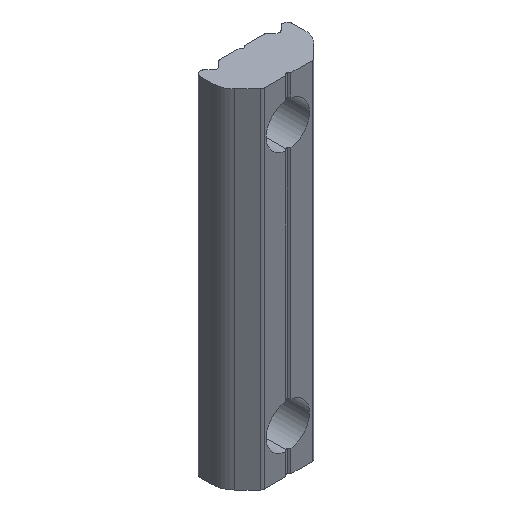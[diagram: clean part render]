
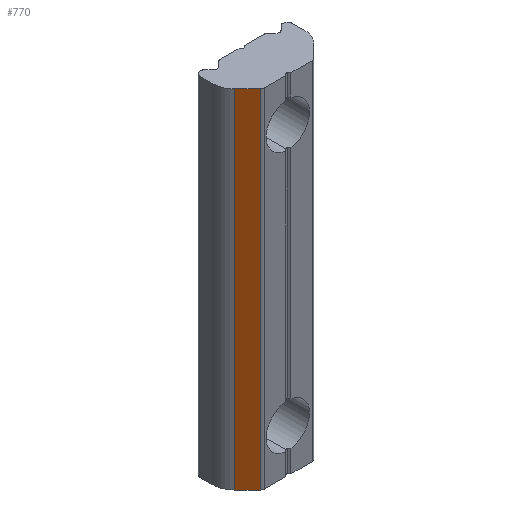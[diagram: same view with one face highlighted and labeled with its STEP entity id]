
A CAD part, isometric view. The second image highlights one B-rep face of the part: STEP entity #770.
In plain terms, the highlighted planar face has unit normal (-0.707, -0.707, 0).
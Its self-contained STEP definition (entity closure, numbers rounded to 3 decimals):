
#8 = AXIS2_PLACEMENT_3D ( 'NONE', #909, #1016, #998 ) ;
#24 = EDGE_LOOP ( 'NONE', ( #561, #522, #739, #948 ) ) ;
#51 = DIRECTION ( 'NONE',  ( -0.707, 0.707, 0. ) ) ;
#119 = EDGE_CURVE ( 'NONE', #166, #1096, #719, .T. ) ;
#143 = DIRECTION ( 'NONE',  ( -0.707, 0.707, 0. ) ) ;
#166 = VERTEX_POINT ( 'NONE', #1321 ) ;
#192 = VERTEX_POINT ( 'NONE', #1517 ) ;
#423 = CARTESIAN_POINT ( 'NONE',  ( -2.936, 0., 20. ) ) ;
#440 = VERTEX_POINT ( 'NONE', #638 ) ;
#522 = ORIENTED_EDGE ( 'NONE', *, *, #575, .T. ) ;
#535 = VECTOR ( 'NONE', #761, 1000. ) ;
#561 = ORIENTED_EDGE ( 'NONE', *, *, #1836, .T. ) ;
#575 = EDGE_CURVE ( 'NONE', #440, #1096, #1405, .T. ) ;
#624 = EDGE_CURVE ( 'NONE', #166, #192, #1302, .T. ) ;
#638 = CARTESIAN_POINT ( 'NONE',  ( -4.568, 1.632, 20. ) ) ;
#687 = LINE ( 'NONE', #423, #994 ) ;
#719 = LINE ( 'NONE', #1061, #1452 ) ;
#739 = ORIENTED_EDGE ( 'NONE', *, *, #119, .F. ) ;
#761 = DIRECTION ( 'NONE',  ( 0., 0., 1. ) ) ;
#770 = ADVANCED_FACE ( 'NONE', ( #997 ), #1298, .T. ) ;
#909 = CARTESIAN_POINT ( 'NONE',  ( -2.936, 0., 19. ) ) ;
#948 = ORIENTED_EDGE ( 'NONE', *, *, #624, .T. ) ;
#994 = VECTOR ( 'NONE', #51, 1000. ) ;
#997 = FACE_OUTER_BOUND ( 'NONE', #24, .T. ) ;
#998 = DIRECTION ( 'NONE',  ( 0.707, -0.707, 0. ) ) ;
#1016 = DIRECTION ( 'NONE',  ( -0.707, -0.707, 0. ) ) ;
#1061 = CARTESIAN_POINT ( 'NONE',  ( -2.936, 0., -20. ) ) ;
#1096 = VERTEX_POINT ( 'NONE', #1463 ) ;
#1208 = CARTESIAN_POINT ( 'NONE',  ( -4.568, 1.632, 19. ) ) ;
#1240 = CARTESIAN_POINT ( 'NONE',  ( -3.082, 0.146, 19. ) ) ;
#1298 = PLANE ( 'NONE',  #8 ) ;
#1302 = LINE ( 'NONE', #1240, #535 ) ;
#1321 = CARTESIAN_POINT ( 'NONE',  ( -3.082, 0.146, -20. ) ) ;
#1405 = LINE ( 'NONE', #1208, #1824 ) ;
#1452 = VECTOR ( 'NONE', #143, 1000. ) ;
#1463 = CARTESIAN_POINT ( 'NONE',  ( -4.568, 1.632, -20. ) ) ;
#1517 = CARTESIAN_POINT ( 'NONE',  ( -3.082, 0.146, 20. ) ) ;
#1518 = DIRECTION ( 'NONE',  ( 0., 0., -1. ) ) ;
#1824 = VECTOR ( 'NONE', #1518, 1000. ) ;
#1836 = EDGE_CURVE ( 'NONE', #192, #440, #687, .T. ) ;
